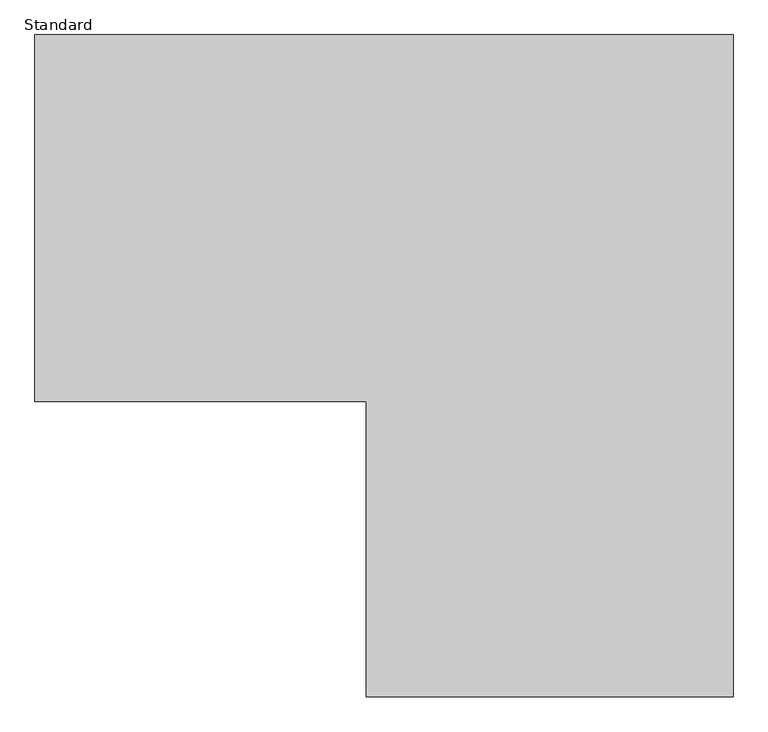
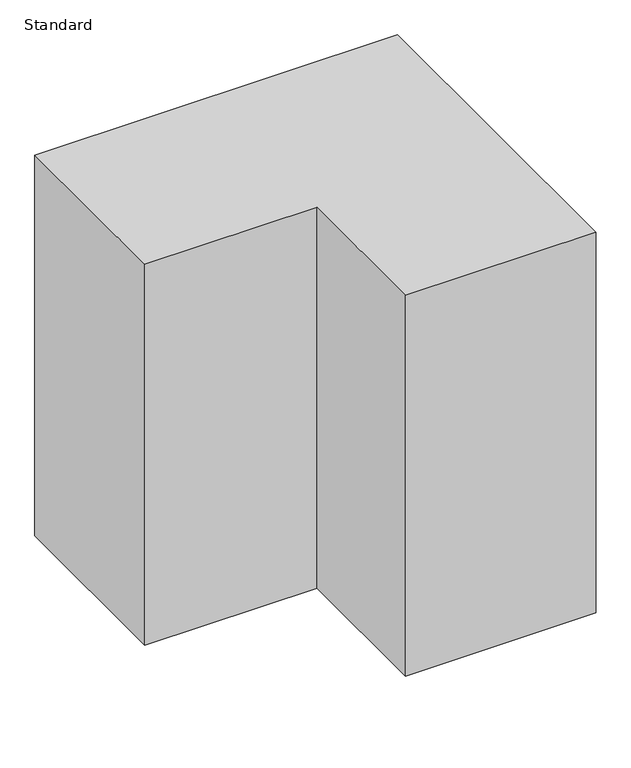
"""IFC4 building model written with IfcOpenShell, lengths in millimetres: proxy geometry, Clearance-Door-Circulation-AS1428.1-2021-Duracube : Standard."""

from ifc_helpers import new_model, si_unit, origin, origin_with_axes, place, context, project, spatial, polyline, outline, extrude, source, transform, mapped, element, save


def standard_f88c7766(model_context):
    return source(origin(), model_context, "Body", "SweptSolid", [
        extrude(outline(polyline([(450.0, 812.5), (450.0, -812.5), (-450.0, -812.5), (-450.0, -87.5), (-1262.5, -87.5), (-1262.5, 812.5), (450.0, 812.5)])), origin_with_axes(), (0.0, 0.0, 1.0), 1900.0),
    ])


if __name__ == "__main__":
    model = new_model("IFC4")
    model_context = context("Model", 3, world=origin())
    ifc_project = project(units=[si_unit("LENGTHUNIT", "METRE", prefix="MILLI")], contexts=[model_context])
    site = spatial("IfcSite", under=ifc_project)
    building = spatial("IfcBuilding", under=site)
    placement = place(None, origin())
    standard_shape = standard_f88c7766(model_context)
    element("IfcBuildingElementProxy", 1, Name="Clearance-Door-Circulation-AS1428.1-2021-Duracube : Standard", ObjectType="Clearance-Door-Circulation-AS1428.1-2021-Duracube : Standard", at=placement, inside=building, context=model_context, shape_type="MappedRepresentation", body=[
        mapped(standard_shape, transform((0.0, 0.0, 0.0), x_axis=(1.0, 0.0, 0.0), y_axis=(0.0, 1.0, 0.0), z_axis=(0.0, 0.0, 1.0))),
    ])
    save(model, "model.ifc")
